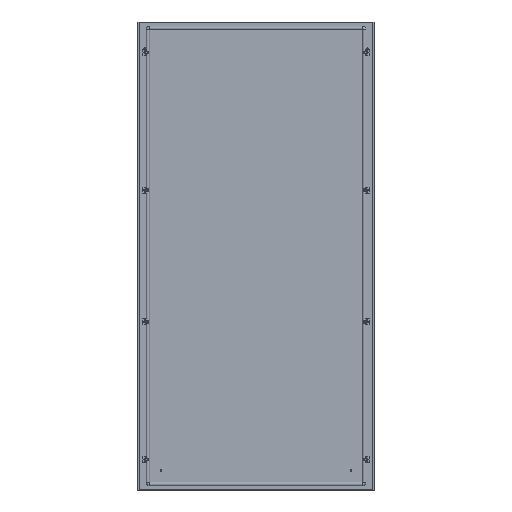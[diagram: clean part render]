
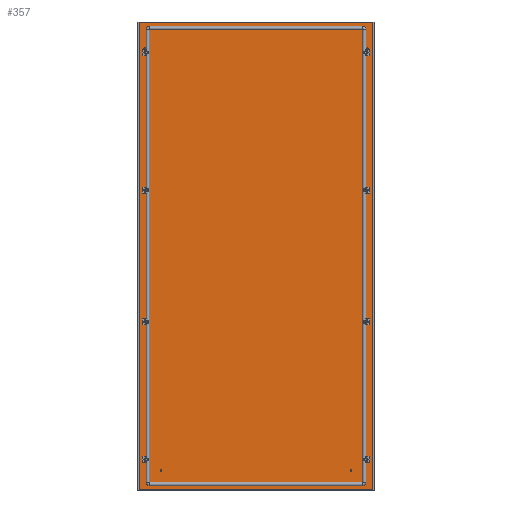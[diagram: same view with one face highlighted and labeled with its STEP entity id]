
A CAD part, top view. The second image highlights one B-rep face of the part: STEP entity #357.
In plain terms, the highlighted planar face has unit normal (0, 0, 1).
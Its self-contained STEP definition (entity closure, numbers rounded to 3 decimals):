
#357 = ADVANCED_FACE('',(#358,#456,#467,#478,#498,#518,#529,#540,#560),
  #580,.F.);
#358 = FACE_BOUND('',#359,.T.);
#359 = EDGE_LOOP('',(#360,#370,#378,#386,#394,#402,#410,#418,#426,#434,
    #442,#450));
#360 = ORIENTED_EDGE('',*,*,#361,.F.);
#361 = EDGE_CURVE('',#362,#364,#366,.T.);
#362 = VERTEX_POINT('',#363);
#363 = CARTESIAN_POINT('',(-495.5,977.5,0.));
#364 = VERTEX_POINT('',#365);
#365 = CARTESIAN_POINT('',(-495.3,977.5,0.));
#366 = LINE('',#367,#368);
#367 = CARTESIAN_POINT('',(0.,977.5,0.
    ));
#368 = VECTOR('',#369,1.);
#369 = DIRECTION('',(1.,0.,0.));
#370 = ORIENTED_EDGE('',*,*,#371,.T.);
#371 = EDGE_CURVE('',#362,#372,#374,.T.);
#372 = VERTEX_POINT('',#373);
#373 = CARTESIAN_POINT('',(-495.5,-977.5,0.));
#374 = LINE('',#375,#376);
#375 = CARTESIAN_POINT('',(-495.5,0.,
    0.));
#376 = VECTOR('',#377,1.);
#377 = DIRECTION('',(0.,-1.,0.));
#378 = ORIENTED_EDGE('',*,*,#379,.T.);
#379 = EDGE_CURVE('',#372,#380,#382,.T.);
#380 = VERTEX_POINT('',#381);
#381 = CARTESIAN_POINT('',(-495.3,-977.5,0.));
#382 = LINE('',#383,#384);
#383 = CARTESIAN_POINT('',(0.,-977.5,
    0.));
#384 = VECTOR('',#385,1.);
#385 = DIRECTION('',(1.,-0.,-0.));
#386 = ORIENTED_EDGE('',*,*,#387,.F.);
#387 = EDGE_CURVE('',#388,#380,#390,.T.);
#388 = VERTEX_POINT('',#389);
#389 = CARTESIAN_POINT('',(-495.3,-976.,0.));
#390 = LINE('',#391,#392);
#391 = CARTESIAN_POINT('',(-495.3,0.,0.
    ));
#392 = VECTOR('',#393,1.);
#393 = DIRECTION('',(0.,-1.,0.));
#394 = ORIENTED_EDGE('',*,*,#395,.T.);
#395 = EDGE_CURVE('',#388,#396,#398,.T.);
#396 = VERTEX_POINT('',#397);
#397 = CARTESIAN_POINT('',(495.3,-976.,0.));
#398 = LINE('',#399,#400);
#399 = CARTESIAN_POINT('',(0.,-976.,0.
    ));
#400 = VECTOR('',#401,1.);
#401 = DIRECTION('',(1.,-0.,-0.));
#402 = ORIENTED_EDGE('',*,*,#403,.T.);
#403 = EDGE_CURVE('',#396,#404,#406,.T.);
#404 = VERTEX_POINT('',#405);
#405 = CARTESIAN_POINT('',(495.3,-977.5,0.));
#406 = LINE('',#407,#408);
#407 = CARTESIAN_POINT('',(495.3,-976.,0.));
#408 = VECTOR('',#409,1.);
#409 = DIRECTION('',(0.,-1.,0.));
#410 = ORIENTED_EDGE('',*,*,#411,.F.);
#411 = EDGE_CURVE('',#412,#404,#414,.T.);
#412 = VERTEX_POINT('',#413);
#413 = CARTESIAN_POINT('',(495.5,-977.5,0.));
#414 = LINE('',#415,#416);
#415 = CARTESIAN_POINT('',(0.,-977.5,
    0.));
#416 = VECTOR('',#417,1.);
#417 = DIRECTION('',(-1.,0.,0.));
#418 = ORIENTED_EDGE('',*,*,#419,.T.);
#419 = EDGE_CURVE('',#412,#420,#422,.T.);
#420 = VERTEX_POINT('',#421);
#421 = CARTESIAN_POINT('',(495.5,977.5,0.));
#422 = LINE('',#423,#424);
#423 = CARTESIAN_POINT('',(495.5,0.,0.));
#424 = VECTOR('',#425,1.);
#425 = DIRECTION('',(0.,1.,0.));
#426 = ORIENTED_EDGE('',*,*,#427,.T.);
#427 = EDGE_CURVE('',#420,#428,#430,.T.);
#428 = VERTEX_POINT('',#429);
#429 = CARTESIAN_POINT('',(495.3,977.5,0.));
#430 = LINE('',#431,#432);
#431 = CARTESIAN_POINT('',(0.,977.5,0.)
  );
#432 = VECTOR('',#433,1.);
#433 = DIRECTION('',(-1.,0.,0.));
#434 = ORIENTED_EDGE('',*,*,#435,.F.);
#435 = EDGE_CURVE('',#436,#428,#438,.T.);
#436 = VERTEX_POINT('',#437);
#437 = CARTESIAN_POINT('',(495.3,976.,0.));
#438 = LINE('',#439,#440);
#439 = CARTESIAN_POINT('',(495.3,0.,
    0.));
#440 = VECTOR('',#441,1.);
#441 = DIRECTION('',(0.,1.,0.));
#442 = ORIENTED_EDGE('',*,*,#443,.T.);
#443 = EDGE_CURVE('',#436,#444,#446,.T.);
#444 = VERTEX_POINT('',#445);
#445 = CARTESIAN_POINT('',(-495.3,976.,0.));
#446 = LINE('',#447,#448);
#447 = CARTESIAN_POINT('',(0.,976.,0.)
  );
#448 = VECTOR('',#449,1.);
#449 = DIRECTION('',(-1.,0.,0.));
#450 = ORIENTED_EDGE('',*,*,#451,.T.);
#451 = EDGE_CURVE('',#444,#364,#452,.T.);
#452 = LINE('',#453,#454);
#453 = CARTESIAN_POINT('',(-495.3,976.,0.));
#454 = VECTOR('',#455,1.);
#455 = DIRECTION('',(0.,1.,0.));
#456 = FACE_BOUND('',#457,.T.);
#457 = EDGE_LOOP('',(#458));
#458 = ORIENTED_EDGE('',*,*,#459,.T.);
#459 = EDGE_CURVE('',#460,#460,#462,.T.);
#460 = VERTEX_POINT('',#461);
#461 = CARTESIAN_POINT('',(-464.5,-270.25,
    0.));
#462 = CIRCLE('',#463,4.75);
#463 = AXIS2_PLACEMENT_3D('',#464,#465,#466);
#464 = CARTESIAN_POINT('',(-464.5,-275.,0.));
#465 = DIRECTION('',(0.,0.,-1.));
#466 = DIRECTION('',(0.,1.,0.));
#467 = FACE_BOUND('',#468,.T.);
#468 = EDGE_LOOP('',(#469));
#469 = ORIENTED_EDGE('',*,*,#470,.T.);
#470 = EDGE_CURVE('',#471,#471,#473,.T.);
#471 = VERTEX_POINT('',#472);
#472 = CARTESIAN_POINT('',(464.5,-279.75,
    0.));
#473 = CIRCLE('',#474,4.75);
#474 = AXIS2_PLACEMENT_3D('',#475,#476,#477);
#475 = CARTESIAN_POINT('',(464.5,-275.,0.));
#476 = DIRECTION('',(-0.,0.,-1.));
#477 = DIRECTION('',(0.,-1.,0.));
#478 = FACE_BOUND('',#479,.T.);
#479 = EDGE_LOOP('',(#480,#491));
#480 = ORIENTED_EDGE('',*,*,#481,.F.);
#481 = EDGE_CURVE('',#482,#484,#486,.T.);
#482 = VERTEX_POINT('',#483);
#483 = CARTESIAN_POINT('',(-464.5,854.75,
    0.));
#484 = VERTEX_POINT('',#485);
#485 = CARTESIAN_POINT('',(-464.5,845.25,
    0.));
#486 = CIRCLE('',#487,4.75);
#487 = AXIS2_PLACEMENT_3D('',#488,#489,#490);
#488 = CARTESIAN_POINT('',(-464.5,850.,0.));
#489 = DIRECTION('',(0.,0.,1.));
#490 = DIRECTION('',(0.,1.,0.));
#491 = ORIENTED_EDGE('',*,*,#492,.F.);
#492 = EDGE_CURVE('',#484,#482,#493,.T.);
#493 = CIRCLE('',#494,4.75);
#494 = AXIS2_PLACEMENT_3D('',#495,#496,#497);
#495 = CARTESIAN_POINT('',(-464.5,850.,0.));
#496 = DIRECTION('',(0.,0.,1.));
#497 = DIRECTION('',(0.,1.,0.));
#498 = FACE_BOUND('',#499,.T.);
#499 = EDGE_LOOP('',(#500,#511));
#500 = ORIENTED_EDGE('',*,*,#501,.F.);
#501 = EDGE_CURVE('',#502,#504,#506,.T.);
#502 = VERTEX_POINT('',#503);
#503 = CARTESIAN_POINT('',(464.5,845.25,
    0.));
#504 = VERTEX_POINT('',#505);
#505 = CARTESIAN_POINT('',(464.5,854.75,
    0.));
#506 = CIRCLE('',#507,4.75);
#507 = AXIS2_PLACEMENT_3D('',#508,#509,#510);
#508 = CARTESIAN_POINT('',(464.5,850.,0.));
#509 = DIRECTION('',(0.,0.,1.));
#510 = DIRECTION('',(0.,-1.,0.));
#511 = ORIENTED_EDGE('',*,*,#512,.F.);
#512 = EDGE_CURVE('',#504,#502,#513,.T.);
#513 = CIRCLE('',#514,4.75);
#514 = AXIS2_PLACEMENT_3D('',#515,#516,#517);
#515 = CARTESIAN_POINT('',(464.5,850.,0.));
#516 = DIRECTION('',(0.,0.,1.));
#517 = DIRECTION('',(0.,-1.,0.));
#518 = FACE_BOUND('',#519,.T.);
#519 = EDGE_LOOP('',(#520));
#520 = ORIENTED_EDGE('',*,*,#521,.T.);
#521 = EDGE_CURVE('',#522,#522,#524,.T.);
#522 = VERTEX_POINT('',#523);
#523 = CARTESIAN_POINT('',(-464.5,-845.25,
    0.));
#524 = CIRCLE('',#525,4.75);
#525 = AXIS2_PLACEMENT_3D('',#526,#527,#528);
#526 = CARTESIAN_POINT('',(-464.5,-850.,0.));
#527 = DIRECTION('',(0.,0.,-1.));
#528 = DIRECTION('',(0.,1.,0.));
#529 = FACE_BOUND('',#530,.T.);
#530 = EDGE_LOOP('',(#531));
#531 = ORIENTED_EDGE('',*,*,#532,.T.);
#532 = EDGE_CURVE('',#533,#533,#535,.T.);
#533 = VERTEX_POINT('',#534);
#534 = CARTESIAN_POINT('',(464.5,-854.75,
    0.));
#535 = CIRCLE('',#536,4.75);
#536 = AXIS2_PLACEMENT_3D('',#537,#538,#539);
#537 = CARTESIAN_POINT('',(464.5,-850.,0.));
#538 = DIRECTION('',(-0.,0.,-1.));
#539 = DIRECTION('',(0.,-1.,0.));
#540 = FACE_BOUND('',#541,.T.);
#541 = EDGE_LOOP('',(#542,#553));
#542 = ORIENTED_EDGE('',*,*,#543,.F.);
#543 = EDGE_CURVE('',#544,#546,#548,.T.);
#544 = VERTEX_POINT('',#545);
#545 = CARTESIAN_POINT('',(464.5,270.25,
    0.));
#546 = VERTEX_POINT('',#547);
#547 = CARTESIAN_POINT('',(464.5,279.75,
    0.));
#548 = CIRCLE('',#549,4.75);
#549 = AXIS2_PLACEMENT_3D('',#550,#551,#552);
#550 = CARTESIAN_POINT('',(464.5,275.,0.));
#551 = DIRECTION('',(0.,0.,1.));
#552 = DIRECTION('',(0.,-1.,0.));
#553 = ORIENTED_EDGE('',*,*,#554,.F.);
#554 = EDGE_CURVE('',#546,#544,#555,.T.);
#555 = CIRCLE('',#556,4.75);
#556 = AXIS2_PLACEMENT_3D('',#557,#558,#559);
#557 = CARTESIAN_POINT('',(464.5,275.,0.));
#558 = DIRECTION('',(0.,0.,1.));
#559 = DIRECTION('',(0.,-1.,0.));
#560 = FACE_BOUND('',#561,.T.);
#561 = EDGE_LOOP('',(#562,#573));
#562 = ORIENTED_EDGE('',*,*,#563,.F.);
#563 = EDGE_CURVE('',#564,#566,#568,.T.);
#564 = VERTEX_POINT('',#565);
#565 = CARTESIAN_POINT('',(-464.5,279.75,
    0.));
#566 = VERTEX_POINT('',#567);
#567 = CARTESIAN_POINT('',(-464.5,270.25,
    0.));
#568 = CIRCLE('',#569,4.75);
#569 = AXIS2_PLACEMENT_3D('',#570,#571,#572);
#570 = CARTESIAN_POINT('',(-464.5,275.,0.));
#571 = DIRECTION('',(0.,0.,1.));
#572 = DIRECTION('',(0.,1.,0.));
#573 = ORIENTED_EDGE('',*,*,#574,.F.);
#574 = EDGE_CURVE('',#566,#564,#575,.T.);
#575 = CIRCLE('',#576,4.75);
#576 = AXIS2_PLACEMENT_3D('',#577,#578,#579);
#577 = CARTESIAN_POINT('',(-464.5,275.,0.));
#578 = DIRECTION('',(0.,0.,1.));
#579 = DIRECTION('',(0.,1.,0.));
#580 = PLANE('',#581);
#581 = AXIS2_PLACEMENT_3D('',#582,#583,#584);
#582 = CARTESIAN_POINT('',(0.,0.,
    0.));
#583 = DIRECTION('',(0.,0.,-1.));
#584 = DIRECTION('',(-1.,0.,0.));
